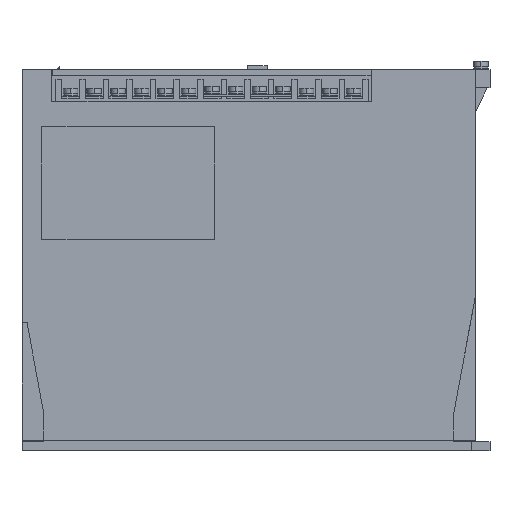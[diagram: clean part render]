
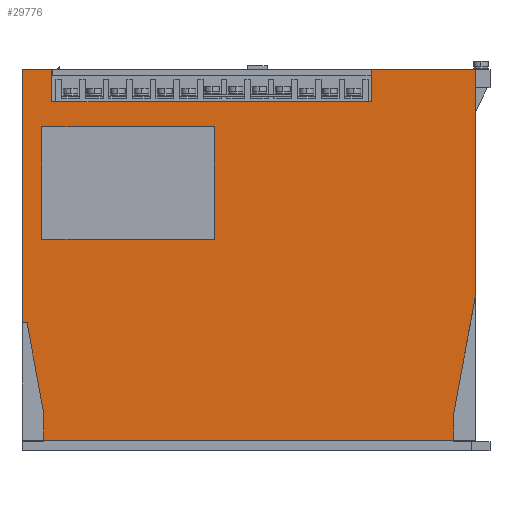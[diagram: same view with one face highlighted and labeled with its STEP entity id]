
A CAD part, left-side view. The second image highlights one B-rep face of the part: STEP entity #29776.
In plain terms, the highlighted planar face has unit normal (-1, 0, 0).
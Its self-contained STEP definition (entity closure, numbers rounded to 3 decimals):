
#10073 = CARTESIAN_POINT ( 'NONE',  ( -105., -10.5, 210. ) ) ;
#10089 = CARTESIAN_POINT ( 'NONE',  ( -105., -186.7, 192.2 ) ) ;
#10140 = CARTESIAN_POINT ( 'NONE',  ( -105., -10.5, 192.2 ) ) ;
#10141 = DIRECTION ( 'NONE',  ( 0., 0., 1. ) ) ;
#10142 = VECTOR ( 'NONE', #10141, 1000. ) ;
#10143 = CARTESIAN_POINT ( 'NONE',  ( -105., -10.5, 192.2 ) ) ;
#10144 = LINE ( 'NONE', #10143, #10142 ) ;
#10175 = CARTESIAN_POINT ( 'NONE',  ( -105., -186.7, 210. ) ) ;
#19687 = DIRECTION ( 'NONE',  ( 0., -1., 0. ) ) ;
#19688 = VECTOR ( 'NONE', #19687, 1000. ) ;
#19689 = CARTESIAN_POINT ( 'NONE',  ( -105., -10.5, 192.2 ) ) ;
#19690 = LINE ( 'NONE', #19689, #19688 ) ;
#23519 = DIRECTION ( 'NONE',  ( 0., 0., -1. ) ) ;
#23520 = VECTOR ( 'NONE', #23519, 1000. ) ;
#23521 = CARTESIAN_POINT ( 'NONE',  ( -105., 6., 467.13 ) ) ;
#23522 = LINE ( 'NONE', #23521, #23520 ) ;
#23528 = CARTESIAN_POINT ( 'NONE',  ( -105., 6., 70.5 ) ) ;
#24527 = EDGE_CURVE ( 'NONE', #39658, #24759, #48987, .T. ) ;
#24759 = VERTEX_POINT ( 'NONE', #49418 ) ;
#24846 = VERTEX_POINT ( 'NONE', #49597 ) ;
#24847 = EDGE_CURVE ( 'NONE', #24846, #39594, #49596, .T. ) ;
#29652 = VERTEX_POINT ( 'NONE', #58015 ) ;
#29701 = VERTEX_POINT ( 'NONE', #58126 ) ;
#29717 = EDGE_CURVE ( 'NONE', #24759, #29652, #58160, .T. ) ;
#29760 = EDGE_CURVE ( 'NONE', #29761, #29701, #58219, .T. ) ;
#29761 = VERTEX_POINT ( 'NONE', #58215 ) ;
#29772 = EDGE_LOOP ( 'NONE', ( #29773, #29837, #29840, #29843 ) ) ;
#29773 = ORIENTED_EDGE ( 'NONE', *, *, #29774, .F. ) ;
#29774 = EDGE_CURVE ( 'NONE', #29775, #29836, #58262, .T. ) ;
#29775 = VERTEX_POINT ( 'NONE', #58258 ) ;
#29776 = ADVANCED_FACE ( 'NONE', ( #58257, #58256 ), #58255, .F. ) ;
#29777 = EDGE_LOOP ( 'NONE', ( #29778, #29779, #29780, #29781, #29782, #29785, #29787, #29851, #29853, #29854, #29856, #29857, #29858 ) ) ;
#29778 = ORIENTED_EDGE ( 'NONE', *, *, #45769, .F. ) ;
#29779 = ORIENTED_EDGE ( 'NONE', *, *, #39637, .T. ) ;
#29780 = ORIENTED_EDGE ( 'NONE', *, *, #24847, .F. ) ;
#29781 = ORIENTED_EDGE ( 'NONE', *, *, #61142, .T. ) ;
#29782 = ORIENTED_EDGE ( 'NONE', *, *, #29783, .T. ) ;
#29783 = EDGE_CURVE ( 'NONE', #60963, #29784, #58250, .T. ) ;
#29784 = VERTEX_POINT ( 'NONE', #58246 ) ;
#29785 = ORIENTED_EDGE ( 'NONE', *, *, #29786, .F. ) ;
#29786 = EDGE_CURVE ( 'NONE', #29761, #29784, #58245, .T. ) ;
#29787 = ORIENTED_EDGE ( 'NONE', *, *, #29760, .T. ) ;
#29809 = VERTEX_POINT ( 'NONE', #58272 ) ;
#29811 = EDGE_CURVE ( 'NONE', #29809, #29812, #58271, .T. ) ;
#29812 = VERTEX_POINT ( 'NONE', #58267 ) ;
#29836 = VERTEX_POINT ( 'NONE', #58301 ) ;
#29837 = ORIENTED_EDGE ( 'NONE', *, *, #29838, .F. ) ;
#29838 = EDGE_CURVE ( 'NONE', #29839, #29775, #58372, .T. ) ;
#29839 = VERTEX_POINT ( 'NONE', #58368 ) ;
#29840 = ORIENTED_EDGE ( 'NONE', *, *, #29841, .F. ) ;
#29841 = EDGE_CURVE ( 'NONE', #29842, #29839, #58367, .T. ) ;
#29842 = VERTEX_POINT ( 'NONE', #58363 ) ;
#29843 = ORIENTED_EDGE ( 'NONE', *, *, #29844, .F. ) ;
#29844 = EDGE_CURVE ( 'NONE', #29836, #29842, #58362, .T. ) ;
#29851 = ORIENTED_EDGE ( 'NONE', *, *, #29852, .T. ) ;
#29852 = EDGE_CURVE ( 'NONE', #29701, #29812, #58403, .T. ) ;
#29853 = ORIENTED_EDGE ( 'NONE', *, *, #29811, .F. ) ;
#29854 = ORIENTED_EDGE ( 'NONE', *, *, #29855, .T. ) ;
#29855 = EDGE_CURVE ( 'NONE', #29809, #29652, #58399, .T. ) ;
#29856 = ORIENTED_EDGE ( 'NONE', *, *, #29717, .F. ) ;
#29857 = ORIENTED_EDGE ( 'NONE', *, *, #24527, .F. ) ;
#29858 = ORIENTED_EDGE ( 'NONE', *, *, #30392, .F. ) ;
#30392 = EDGE_CURVE ( 'NONE', #39627, #39658, #59216, .T. ) ;
#39594 = VERTEX_POINT ( 'NONE', #10073 ) ;
#39627 = VERTEX_POINT ( 'NONE', #10089 ) ;
#39637 = EDGE_CURVE ( 'NONE', #39638, #39594, #10144, .T. ) ;
#39638 = VERTEX_POINT ( 'NONE', #10140 ) ;
#39658 = VERTEX_POINT ( 'NONE', #10175 ) ;
#45769 = EDGE_CURVE ( 'NONE', #39638, #39627, #19690, .T. ) ;
#48984 = DIRECTION ( 'NONE',  ( 0., -1., 0. ) ) ;
#48985 = VECTOR ( 'NONE', #48984, 1000. ) ;
#48986 = CARTESIAN_POINT ( 'NONE',  ( -105., 6., 210. ) ) ;
#48987 = LINE ( 'NONE', #48986, #48985 ) ;
#49418 = CARTESIAN_POINT ( 'NONE',  ( -105., -244., 210. ) ) ;
#49593 = DIRECTION ( 'NONE',  ( 0., -1., 0. ) ) ;
#49594 = VECTOR ( 'NONE', #49593, 1000. ) ;
#49595 = CARTESIAN_POINT ( 'NONE',  ( -105., 6., 210. ) ) ;
#49596 = LINE ( 'NONE', #49595, #49594 ) ;
#49597 = CARTESIAN_POINT ( 'NONE',  ( -105., 6., 210. ) ) ;
#58015 = CARTESIAN_POINT ( 'NONE',  ( -105., -244., 85.5 ) ) ;
#58126 = CARTESIAN_POINT ( 'NONE',  ( -105., -6., 5.7 ) ) ;
#58157 = DIRECTION ( 'NONE',  ( 0., 0., -1. ) ) ;
#58158 = VECTOR ( 'NONE', #58157, 1000. ) ;
#58159 = CARTESIAN_POINT ( 'NONE',  ( -105., -244., 467.13 ) ) ;
#58160 = LINE ( 'NONE', #58159, #58158 ) ;
#58215 = CARTESIAN_POINT ( 'NONE',  ( -105., -6., 20.5 ) ) ;
#58216 = DIRECTION ( 'NONE',  ( 0., 0., -1. ) ) ;
#58217 = VECTOR ( 'NONE', #58216, 1000. ) ;
#58218 = CARTESIAN_POINT ( 'NONE',  ( -105., -6., 20.5 ) ) ;
#58219 = LINE ( 'NONE', #58218, #58217 ) ;
#58242 = DIRECTION ( 'NONE',  ( 0., 0.182, 0.983 ) ) ;
#58243 = VECTOR ( 'NONE', #58242, 1000. ) ;
#58244 = CARTESIAN_POINT ( 'NONE',  ( -105., -6., 20.5 ) ) ;
#58245 = LINE ( 'NONE', #58244, #58243 ) ;
#58246 = CARTESIAN_POINT ( 'NONE',  ( -105., 3.231, 70.5 ) ) ;
#58247 = DIRECTION ( 'NONE',  ( 0., -1., 0. ) ) ;
#58248 = VECTOR ( 'NONE', #58247, 1000. ) ;
#58249 = CARTESIAN_POINT ( 'NONE',  ( -105., 6., 70.5 ) ) ;
#58250 = LINE ( 'NONE', #58249, #58248 ) ;
#58251 = DIRECTION ( 'NONE',  ( 0., 0., -1. ) ) ;
#58252 = DIRECTION ( 'NONE',  ( 1., 0., 0. ) ) ;
#58253 = CARTESIAN_POINT ( 'NONE',  ( -105., 6., 483.13 ) ) ;
#58254 = AXIS2_PLACEMENT_3D ( 'NONE', #58253, #58252, #58251 ) ;
#58255 = PLANE ( 'NONE',  #58254 ) ;
#58256 = FACE_BOUND ( 'NONE', #29772, .T. ) ;
#58257 = FACE_OUTER_BOUND ( 'NONE', #29777, .T. ) ;
#58258 = CARTESIAN_POINT ( 'NONE',  ( -105., -100., 116.5 ) ) ;
#58259 = DIRECTION ( 'NONE',  ( 0., 0., 1. ) ) ;
#58260 = VECTOR ( 'NONE', #58259, 1000. ) ;
#58261 = CARTESIAN_POINT ( 'NONE',  ( -105., -100., 116.5 ) ) ;
#58262 = LINE ( 'NONE', #58261, #58260 ) ;
#58267 = CARTESIAN_POINT ( 'NONE',  ( -105., -232., 5.7 ) ) ;
#58268 = DIRECTION ( 'NONE',  ( 0., 0., -1. ) ) ;
#58269 = VECTOR ( 'NONE', #58268, 1000. ) ;
#58270 = CARTESIAN_POINT ( 'NONE',  ( -105., -232., 20.5 ) ) ;
#58271 = LINE ( 'NONE', #58270, #58269 ) ;
#58272 = CARTESIAN_POINT ( 'NONE',  ( -105., -232., 20.5 ) ) ;
#58301 = CARTESIAN_POINT ( 'NONE',  ( -105., -100., 178.5 ) ) ;
#58359 = DIRECTION ( 'NONE',  ( 0., 1., 0. ) ) ;
#58360 = VECTOR ( 'NONE', #58359, 1000. ) ;
#58361 = CARTESIAN_POINT ( 'NONE',  ( -105., -5., 178.5 ) ) ;
#58362 = LINE ( 'NONE', #58361, #58360 ) ;
#58363 = CARTESIAN_POINT ( 'NONE',  ( -105., -5., 178.5 ) ) ;
#58364 = DIRECTION ( 'NONE',  ( 0., 0., -1. ) ) ;
#58365 = VECTOR ( 'NONE', #58364, 1000. ) ;
#58366 = CARTESIAN_POINT ( 'NONE',  ( -105., -5., 116.5 ) ) ;
#58367 = LINE ( 'NONE', #58366, #58365 ) ;
#58368 = CARTESIAN_POINT ( 'NONE',  ( -105., -5., 116.5 ) ) ;
#58369 = DIRECTION ( 'NONE',  ( 0., -1., 0. ) ) ;
#58370 = VECTOR ( 'NONE', #58369, 1000. ) ;
#58371 = CARTESIAN_POINT ( 'NONE',  ( -105., -5., 116.5 ) ) ;
#58372 = LINE ( 'NONE', #58371, #58370 ) ;
#58396 = DIRECTION ( 'NONE',  ( 0., -0.182, 0.983 ) ) ;
#58397 = VECTOR ( 'NONE', #58396, 1000. ) ;
#58398 = CARTESIAN_POINT ( 'NONE',  ( -105., -232., 20.5 ) ) ;
#58399 = LINE ( 'NONE', #58398, #58397 ) ;
#58400 = DIRECTION ( 'NONE',  ( 0., -1., 0. ) ) ;
#58401 = VECTOR ( 'NONE', #58400, 1000. ) ;
#58402 = CARTESIAN_POINT ( 'NONE',  ( -105., -6., 5.7 ) ) ;
#58403 = LINE ( 'NONE', #58402, #58401 ) ;
#59213 = DIRECTION ( 'NONE',  ( 0., 0., 1. ) ) ;
#59214 = VECTOR ( 'NONE', #59213, 1000. ) ;
#59215 = CARTESIAN_POINT ( 'NONE',  ( -105., -186.7, 192.2 ) ) ;
#59216 = LINE ( 'NONE', #59215, #59214 ) ;
#60963 = VERTEX_POINT ( 'NONE', #23528 ) ;
#61142 = EDGE_CURVE ( 'NONE', #24846, #60963, #23522, .T. ) ;
